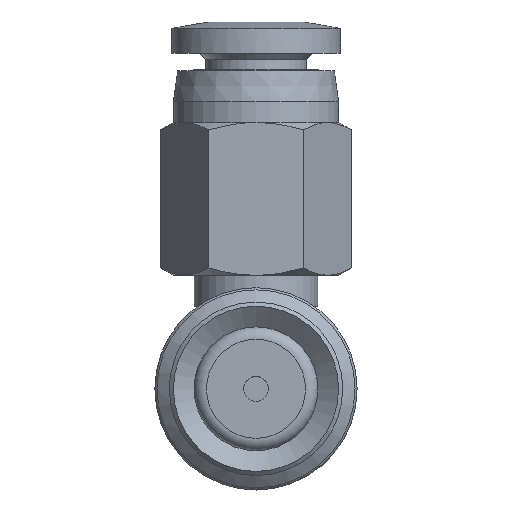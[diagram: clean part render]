
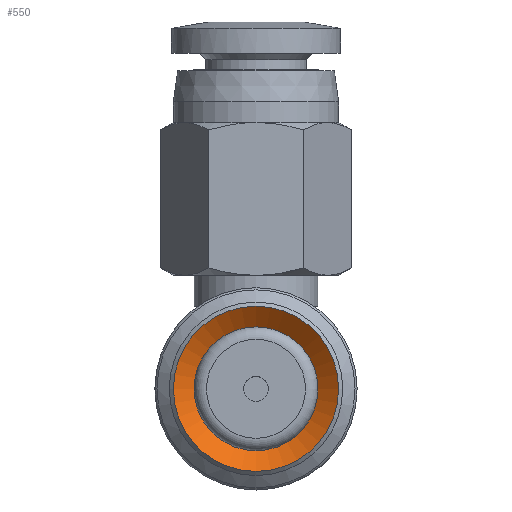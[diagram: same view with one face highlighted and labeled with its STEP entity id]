
A CAD part, front view. The second image highlights one B-rep face of the part: STEP entity #550.
In plain terms, the highlighted conical face has half-angle 52 degrees and reference radius 3 mm.
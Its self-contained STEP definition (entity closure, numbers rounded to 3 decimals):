
#550=ADVANCED_FACE('',(#840,#841),#842,.F.);
#840=FACE_BOUND('',#1225,.T.);
#841=FACE_OUTER_BOUND('',#1226,.T.);
#842=CONICAL_SURFACE('',#1227,3.0,0.908);
#1225=EDGE_LOOP('',(#2230));
#1226=EDGE_LOOP('',(#2231));
#1227=AXIS2_PLACEMENT_3D('',#2232,#2233,#2234);
#2230=ORIENTED_EDGE('',*,*,#2772,.F.);
#2231=ORIENTED_EDGE('',*,*,#2769,.T.);
#2232=CARTESIAN_POINT('',(0.0,7.741,0.));
#2233=DIRECTION('',(-0.0,-1.0,0.));
#2234=DIRECTION('',(0.0,0.,-1.0));
#2769=EDGE_CURVE('',#3158,#3158,#3159,.T.);
#2772=EDGE_CURVE('',#3164,#3164,#3165,.T.);
#3158=VERTEX_POINT('',#3992);
#3159=CIRCLE('',#3993,4.0);
#3164=VERTEX_POINT('',#3998);
#3165=CIRCLE('',#3999,3.0);
#3992=CARTESIAN_POINT('',(0.0,6.96,-4.0));
#3993=AXIS2_PLACEMENT_3D('',#4682,#4683,#4684);
#3998=CARTESIAN_POINT('',(0.0,7.741,-3.0));
#3999=AXIS2_PLACEMENT_3D('',#4691,#4692,#4693);
#4682=CARTESIAN_POINT('',(0.0,6.96,0.0));
#4683=DIRECTION('',(0.0,-1.0,0.));
#4684=DIRECTION('',(0.0,0.,-1.0));
#4691=CARTESIAN_POINT('',(0.0,7.741,0.));
#4692=DIRECTION('',(0.0,-1.0,0.));
#4693=DIRECTION('',(0.0,0.,-1.0));
